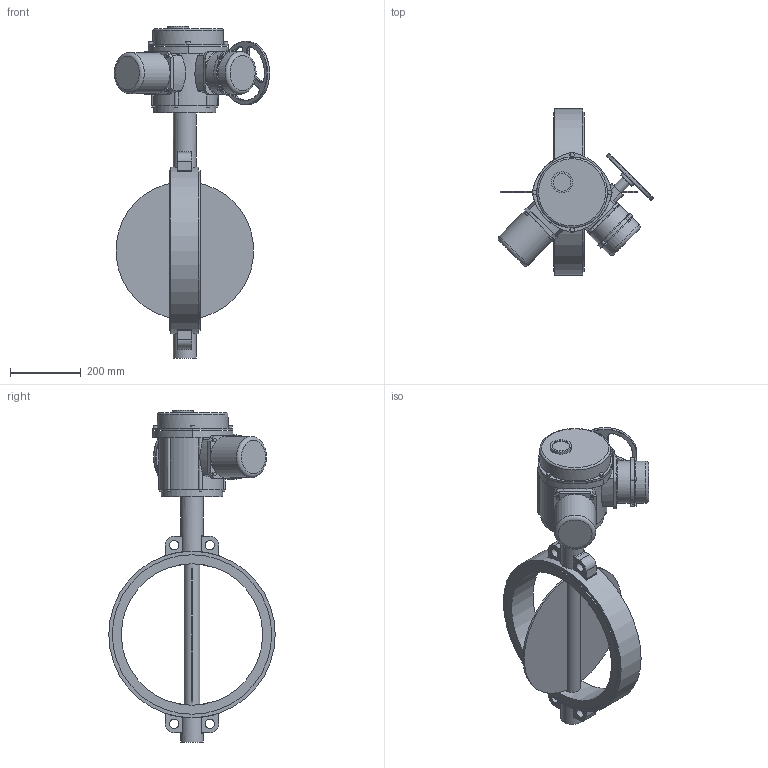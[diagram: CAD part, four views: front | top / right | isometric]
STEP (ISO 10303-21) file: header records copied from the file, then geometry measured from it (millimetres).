
FILE_DESCRIPTION(('STEP AP203'), '1');
FILE_NAME('青蜮铕 017W.YS_DN400_PN10_QT.Z 120_F14', '', ('UNSPECIFIED'), ('UNSPECIFIED'), 'ASCON STEP Converter 1.6', 'ASCON Math Kernel', '');
FILE_SCHEMA(('CONFIG_CONTROL_DESIGN'));
Length unit declared in the file: millimetre
Bounding box: 439.48 x 471 x 939 mm (x, y, z)
Volume: 16393180.9 mm3; surface area: 1119048.2 mm2
Topology: 1 solids, 1 shells, 319 faces, 767 edges, 478 vertices
Faces by surface type: cylinder 143, plane 109, torus 51, cone 8, bspline 8
Full cylindrical faces by diameter (mm): 8 x10, 10 x4, 12 x4, 12.386 x1, 13.835 x4, 18 x4, 26 x4, 30 x1, 45 x2, 50 x1, 60 x1, 65 x2, 116 x1, 120 x2, 175 x1, 180 x1, 200 x1, 400 x1, 451 x2, 471 x1
Entity records: 14430 total; most frequent: CARTESIAN_POINT 4492, DIRECTION 1650, ORIENTED_EDGE 1380, AXIS2_PLACEMENT_3D 704, EDGE_CURVE 690, VERTEX_POINT 473, EDGE_LOOP 440, CIRCLE 392
